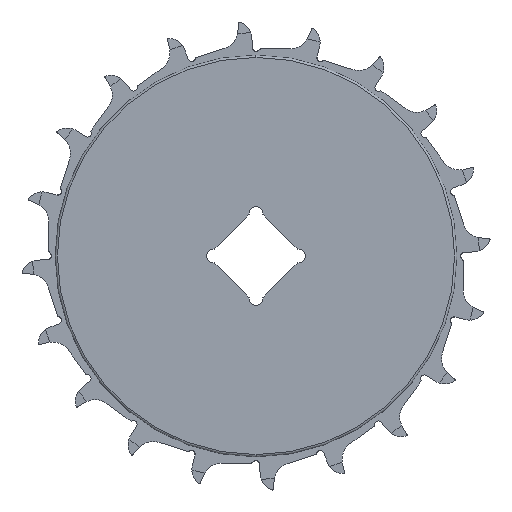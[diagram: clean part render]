
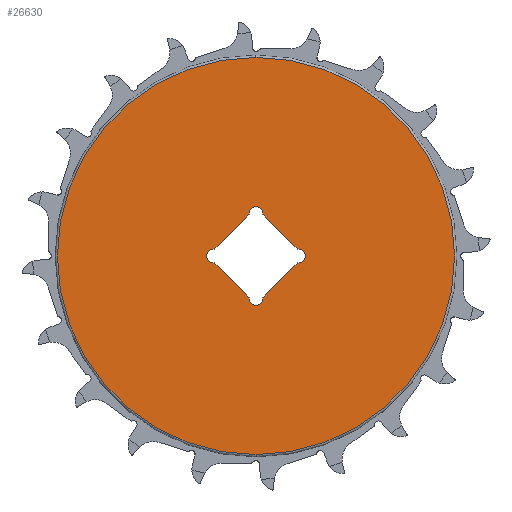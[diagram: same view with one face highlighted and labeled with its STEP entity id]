
A CAD part, left-side view. The second image highlights one B-rep face of the part: STEP entity #26630.
In plain terms, the highlighted planar face has unit normal (-1, 0, 0).
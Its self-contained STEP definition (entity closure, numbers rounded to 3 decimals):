
#13614=CARTESIAN_POINT('',(-25.,0.,0.));
#13615=DIRECTION('',(1.,0.,0.));
#13616=DIRECTION('',(0.,0.,1.));
#13617=AXIS2_PLACEMENT_3D('',#13614,#13615,#13616);
#13622=CARTESIAN_POINT('',(-25.,0.,0.));
#13623=DIRECTION('',(1.,0.,0.));
#13624=DIRECTION('',(0.,0.,-1.));
#13625=AXIS2_PLACEMENT_3D('',#13622,#13623,#13624);
#13630=DIRECTION('',(0.,0.707,0.707));
#13631=VECTOR('',#13630,42.31);
#13632=CARTESIAN_POINT('',(-25.,-36.172,6.254));
#13633=LINE('',#13632,#13631);
#13637=CARTESIAN_POINT('',(-25.,-6.922,36.84));
#13638=DIRECTION('',(1.,0.,0.));
#13639=DIRECTION('',(0.,0.707,-0.707));
#13640=AXIS2_PLACEMENT_3D('',#13637,#13638,#13639);
#13645=CARTESIAN_POINT('',(-25.,0.,37.394));
#13646=DIRECTION('',(1.,0.,0.));
#13647=DIRECTION('',(0.,0.997,-0.08));
#13648=AXIS2_PLACEMENT_3D('',#13645,#13646,#13647);
#13653=CARTESIAN_POINT('',(-25.,6.922,36.84));
#13654=DIRECTION('',(1.,0.,0.));
#13655=DIRECTION('',(0.,-0.997,0.08));
#13656=AXIS2_PLACEMENT_3D('',#13653,#13654,#13655);
#13661=DIRECTION('',(0.,0.707,-0.707));
#13662=VECTOR('',#13661,42.31);
#13663=CARTESIAN_POINT('',(-25.,6.254,36.172));
#13664=LINE('',#13663,#13662);
#13668=CARTESIAN_POINT('',(-25.,36.84,6.922));
#13669=DIRECTION('',(1.,0.,0.));
#13670=DIRECTION('',(0.,-0.707,-0.707));
#13671=AXIS2_PLACEMENT_3D('',#13668,#13669,#13670);
#13676=CARTESIAN_POINT('',(-25.,37.394,0.));
#13677=DIRECTION('',(1.,0.,0.));
#13678=DIRECTION('',(0.,-0.08,-0.997));
#13679=AXIS2_PLACEMENT_3D('',#13676,#13677,#13678);
#13684=CARTESIAN_POINT('',(-25.,36.84,-6.922));
#13685=DIRECTION('',(1.,0.,0.));
#13686=DIRECTION('',(0.,0.08,0.997));
#13687=AXIS2_PLACEMENT_3D('',#13684,#13685,#13686);
#13692=DIRECTION('',(0.,-0.707,-0.707));
#13693=VECTOR('',#13692,42.31);
#13694=CARTESIAN_POINT('',(-25.,36.172,-6.254));
#13695=LINE('',#13694,#13693);
#13699=CARTESIAN_POINT('',(-25.,6.922,-36.84));
#13700=DIRECTION('',(1.,0.,0.));
#13701=DIRECTION('',(0.,-0.707,0.707));
#13702=AXIS2_PLACEMENT_3D('',#13699,#13700,#13701);
#13707=CARTESIAN_POINT('',(-25.,0.,-37.394));
#13708=DIRECTION('',(1.,0.,0.));
#13709=DIRECTION('',(0.,-0.997,0.08));
#13710=AXIS2_PLACEMENT_3D('',#13707,#13708,#13709);
#13715=CARTESIAN_POINT('',(-25.,-6.922,-36.84));
#13716=DIRECTION('',(1.,0.,0.));
#13717=DIRECTION('',(0.,0.997,-0.08));
#13718=AXIS2_PLACEMENT_3D('',#13715,#13716,#13717);
#13723=DIRECTION('',(0.,-0.707,0.707));
#13724=VECTOR('',#13723,42.31);
#13725=CARTESIAN_POINT('',(-25.,-6.254,-36.172));
#13726=LINE('',#13725,#13724);
#13730=CARTESIAN_POINT('',(-25.,-36.84,-6.922));
#13731=DIRECTION('',(1.,0.,0.));
#13732=DIRECTION('',(0.,0.707,0.707));
#13733=AXIS2_PLACEMENT_3D('',#13730,#13731,#13732);
#13738=CARTESIAN_POINT('',(-25.,-37.394,0.));
#13739=DIRECTION('',(1.,0.,0.));
#13740=DIRECTION('',(0.,0.08,0.997));
#13741=AXIS2_PLACEMENT_3D('',#13738,#13739,#13740);
#13746=CARTESIAN_POINT('',(-25.,-36.84,6.922));
#13747=DIRECTION('',(1.,0.,0.));
#13748=DIRECTION('',(0.,-0.08,-0.997));
#13749=AXIS2_PLACEMENT_3D('',#13746,#13747,#13748);
#16731=CARTESIAN_POINT('',(-25.,5.981,36.915));
#16732=CARTESIAN_POINT('',(-25.,-5.981,36.915));
#16733=VERTEX_POINT('',#16731);
#16734=VERTEX_POINT('',#16732);
#16735=CARTESIAN_POINT('',(-25.,6.254,36.172));
#16736=VERTEX_POINT('',#16735);
#16747=CARTESIAN_POINT('',(-25.,0.,175.));
#16748=CARTESIAN_POINT('',(-25.,0.,-175.));
#16749=VERTEX_POINT('',#16747);
#16750=VERTEX_POINT('',#16748);
#16751=CARTESIAN_POINT('',(-25.,-6.254,36.172));
#16752=VERTEX_POINT('',#16751);
#16753=CARTESIAN_POINT('',(-25.,-36.915,5.981));
#16754=CARTESIAN_POINT('',(-25.,-36.172,6.254));
#16755=VERTEX_POINT('',#16753);
#16756=VERTEX_POINT('',#16754);
#16757=CARTESIAN_POINT('',(-25.,-36.915,-5.981));
#16758=VERTEX_POINT('',#16757);
#16759=CARTESIAN_POINT('',(-25.,36.915,-5.981));
#16760=CARTESIAN_POINT('',(-25.,36.915,5.981));
#16761=VERTEX_POINT('',#16759);
#16762=VERTEX_POINT('',#16760);
#16763=CARTESIAN_POINT('',(-25.,36.172,6.254));
#16764=VERTEX_POINT('',#16763);
#16779=CARTESIAN_POINT('',(-25.,-36.172,-6.254));
#16780=VERTEX_POINT('',#16779);
#16781=CARTESIAN_POINT('',(-25.,-5.981,-36.915));
#16782=CARTESIAN_POINT('',(-25.,-6.254,-36.172));
#16783=VERTEX_POINT('',#16781);
#16784=VERTEX_POINT('',#16782);
#16785=CARTESIAN_POINT('',(-25.,5.981,-36.915));
#16786=VERTEX_POINT('',#16785);
#16787=CARTESIAN_POINT('',(-25.,6.254,-36.172));
#16788=VERTEX_POINT('',#16787);
#16789=CARTESIAN_POINT('',(-25.,36.172,-6.254));
#16790=VERTEX_POINT('',#16789);
#26588=CARTESIAN_POINT('',(-25.,0.,0.));
#26589=DIRECTION('',(-1.,0.,0.));
#26590=DIRECTION('',(0.,0.,-1.));
#26591=AXIS2_PLACEMENT_3D('',#26588,#26589,#26590);
#26592=PLANE('',#26591);
#26593=ORIENTED_EDGE('',*,*,#19391,.T.);
#26594=ORIENTED_EDGE('',*,*,#19376,.T.);
#26595=EDGE_LOOP('',(#26593,#26594));
#26596=FACE_OUTER_BOUND('',#26595,.F.);
#26597=ORIENTED_EDGE('',*,*,#26578,.T.);
#26599=ORIENTED_EDGE('',*,*,#26598,.T.);
#26601=ORIENTED_EDGE('',*,*,#26600,.F.);
#26603=ORIENTED_EDGE('',*,*,#26602,.T.);
#26605=ORIENTED_EDGE('',*,*,#26604,.T.);
#26607=ORIENTED_EDGE('',*,*,#26606,.T.);
#26609=ORIENTED_EDGE('',*,*,#26608,.F.);
#26611=ORIENTED_EDGE('',*,*,#26610,.T.);
#26613=ORIENTED_EDGE('',*,*,#26612,.T.);
#26615=ORIENTED_EDGE('',*,*,#26614,.T.);
#26617=ORIENTED_EDGE('',*,*,#26616,.F.);
#26619=ORIENTED_EDGE('',*,*,#26618,.T.);
#26621=ORIENTED_EDGE('',*,*,#26620,.T.);
#26623=ORIENTED_EDGE('',*,*,#26622,.T.);
#26625=ORIENTED_EDGE('',*,*,#26624,.F.);
#26627=ORIENTED_EDGE('',*,*,#26626,.T.);
#26628=EDGE_LOOP('',(#26597,#26599,#26601,#26603,#26605,#26607,#26609,#26611,
#26613,#26615,#26617,#26619,#26621,#26623,#26625,#26627));
#26629=FACE_BOUND('',#26628,.F.);
#13618=CIRCLE('',#13617,175.);
#13626=CIRCLE('',#13625,175.);
#13641=CIRCLE('',#13640,0.944);
#13649=CIRCLE('',#13648,6.);
#13657=CIRCLE('',#13656,0.944);
#13672=CIRCLE('',#13671,0.944);
#13680=CIRCLE('',#13679,6.);
#13688=CIRCLE('',#13687,0.944);
#13703=CIRCLE('',#13702,0.944);
#13711=CIRCLE('',#13710,6.);
#13719=CIRCLE('',#13718,0.944);
#13734=CIRCLE('',#13733,0.944);
#13742=CIRCLE('',#13741,6.);
#13750=CIRCLE('',#13749,0.944);
#19376=EDGE_CURVE('',#16750,#16749,#13626,.T.);
#19391=EDGE_CURVE('',#16749,#16750,#13618,.T.);
#26578=EDGE_CURVE('',#16756,#16752,#13633,.T.);
#26598=EDGE_CURVE('',#16752,#16734,#13641,.T.);
#26600=EDGE_CURVE('',#16733,#16734,#13649,.T.);
#26602=EDGE_CURVE('',#16733,#16736,#13657,.T.);
#26604=EDGE_CURVE('',#16736,#16764,#13664,.T.);
#26606=EDGE_CURVE('',#16764,#16762,#13672,.T.);
#26608=EDGE_CURVE('',#16761,#16762,#13680,.T.);
#26610=EDGE_CURVE('',#16761,#16790,#13688,.T.);
#26612=EDGE_CURVE('',#16790,#16788,#13695,.T.);
#26614=EDGE_CURVE('',#16788,#16786,#13703,.T.);
#26616=EDGE_CURVE('',#16783,#16786,#13711,.T.);
#26618=EDGE_CURVE('',#16783,#16784,#13719,.T.);
#26620=EDGE_CURVE('',#16784,#16780,#13726,.T.);
#26622=EDGE_CURVE('',#16780,#16758,#13734,.T.);
#26624=EDGE_CURVE('',#16755,#16758,#13742,.T.);
#26626=EDGE_CURVE('',#16755,#16756,#13750,.T.);
#26630=ADVANCED_FACE('',(#26596,#26629),#26592,.T.);
